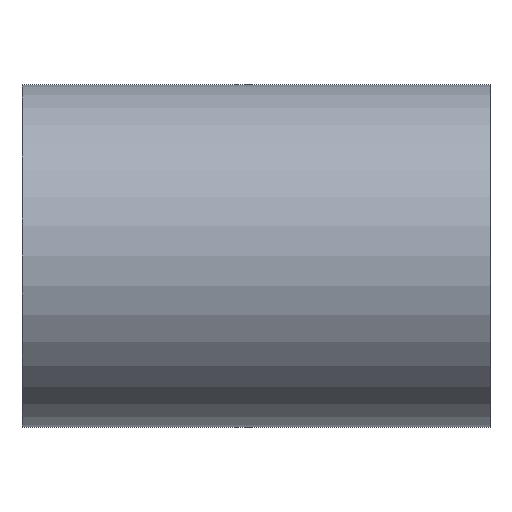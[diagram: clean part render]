
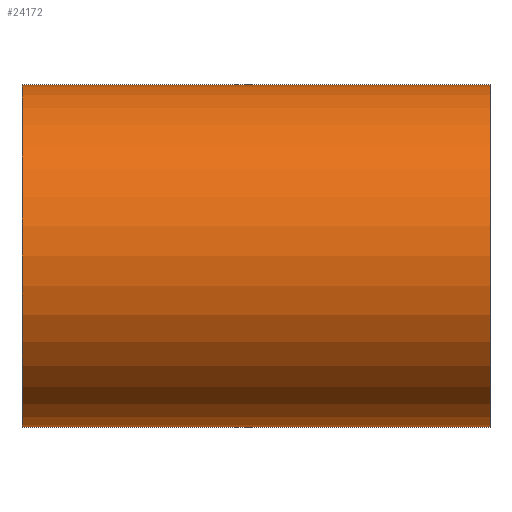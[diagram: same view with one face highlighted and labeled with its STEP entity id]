
A CAD part, left-side view. The second image highlights one B-rep face of the part: STEP entity #24172.
In plain terms, the highlighted cylindrical face has radius 40.3 mm (diameter 80.6 mm), a partial arc.
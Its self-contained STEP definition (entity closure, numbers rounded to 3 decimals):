
#1511=CYLINDRICAL_SURFACE('',#25942,40.3);
#2350=FACE_OUTER_BOUND('',#3767,.T.);
#3767=EDGE_LOOP('',(#19425,#19426,#19427,#19428));
#4755=CIRCLE('',#25929,40.3);
#4761=CIRCLE('',#25943,40.3);
#6482=LINE('',#47573,#8644);
#6483=LINE('',#47576,#8645);
#8644=VECTOR('',#30511,110.);
#8645=VECTOR('',#30514,110.);
#10781=VERTEX_POINT('',#47353);
#10782=VERTEX_POINT('',#47355);
#10798=VERTEX_POINT('',#47572);
#10799=VERTEX_POINT('',#47574);
#13814=EDGE_CURVE('',#10782,#10781,#4755,.T.);
#13836=EDGE_CURVE('',#10782,#10798,#6482,.T.);
#13838=EDGE_CURVE('',#10781,#10799,#6483,.T.);
#13845=EDGE_CURVE('',#10798,#10799,#4761,.T.);
#19425=ORIENTED_EDGE('',*,*,#13814,.T.);
#19426=ORIENTED_EDGE('',*,*,#13838,.T.);
#19427=ORIENTED_EDGE('',*,*,#13845,.F.);
#19428=ORIENTED_EDGE('',*,*,#13836,.F.);
#24172=ADVANCED_FACE('',(#2350),#1511,.T.);
#25929=AXIS2_PLACEMENT_3D('',#47356,#30481,#30482);
#25942=AXIS2_PLACEMENT_3D('',#47733,#30520,#30521);
#25943=AXIS2_PLACEMENT_3D('',#47734,#30522,#30523);
#30481=DIRECTION('center_axis',(0.,1.,0.));
#30482=DIRECTION('ref_axis',(0.,0.,-1.));
#30511=DIRECTION('',(0.,1.,0.));
#30514=DIRECTION('',(0.,1.,0.));
#30520=DIRECTION('center_axis',(0.,1.,0.));
#30521=DIRECTION('ref_axis',(0.,0.,-1.));
#30522=DIRECTION('center_axis',(0.,1.,0.));
#30523=DIRECTION('ref_axis',(0.,0.,-1.));
#47353=CARTESIAN_POINT('',(0.,0.,40.3));
#47355=CARTESIAN_POINT('',(0.,0.,-40.3));
#47356=CARTESIAN_POINT('Origin',(0.,0.,0.));
#47572=CARTESIAN_POINT('',(0.,110.,-40.3));
#47573=CARTESIAN_POINT('',(0.,0.,-40.3));
#47574=CARTESIAN_POINT('',(0.,110.,40.3));
#47576=CARTESIAN_POINT('',(0.,0.,40.3));
#47733=CARTESIAN_POINT('Origin',(0.,0.,0.));
#47734=CARTESIAN_POINT('Origin',(0.,110.,0.));
